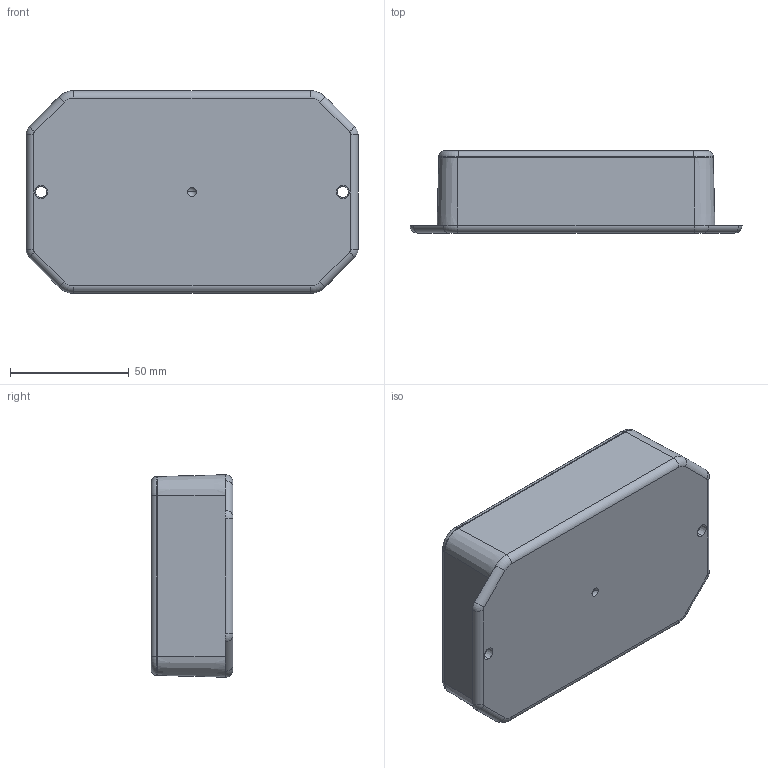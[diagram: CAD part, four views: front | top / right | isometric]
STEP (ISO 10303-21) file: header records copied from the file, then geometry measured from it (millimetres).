
FILE_DESCRIPTION (( 'STEP AP214' ), '1' );
FILE_NAME ('LP-51FMBR_ASS''Y.STEP', '2010-07-21T19:36:21', ( ' ' ), ( '' ), 'SwSTEP 2.0', 'SolidWorks 2010', '' );
FILE_SCHEMA (( 'AUTOMOTIVE_DESIGN' ));
Length unit declared in the file: inch
Products named in the file (4): LP-51C_LP-51C-R; SCREWS-LP-BR_SCREWS-LP-BR; LP-51B_LP-51BFMB; LP-51FMBR_ASS''Y
Assembly tree (6 placements, depth 2):
  LP-51FMBR_ASS''Y
    SCREWS-LP-BR_SCREWS-LP-BR  x4
    LP-51B_LP-51BFMB
    LP-51C_LP-51C-R
Bounding box: 139.7 x 34.47 x 85.22 mm (x, y, z)
Volume: 87227.4 mm3; surface area: 69779.3 mm2
Topology: 6 solids, 6 shells, 482 faces, 1292 edges, 842 vertices
Faces by surface type: cylinder 216, plane 134, cone 84, torus 22, bspline 16, sphere 10
Entity records: 9563 total; most frequent: CARTESIAN_POINT 2759, DIRECTION 1439, ORIENTED_EDGE 1398, EDGE_CURVE 699, AXIS2_PLACEMENT_3D 575, VERTEX_POINT 452, EDGE_LOOP 309, CIRCLE 295
